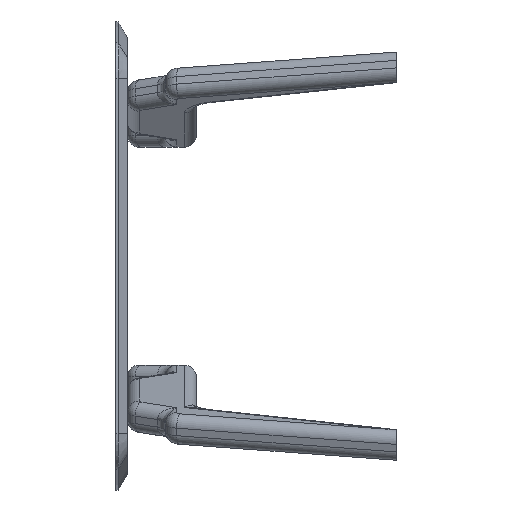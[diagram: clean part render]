
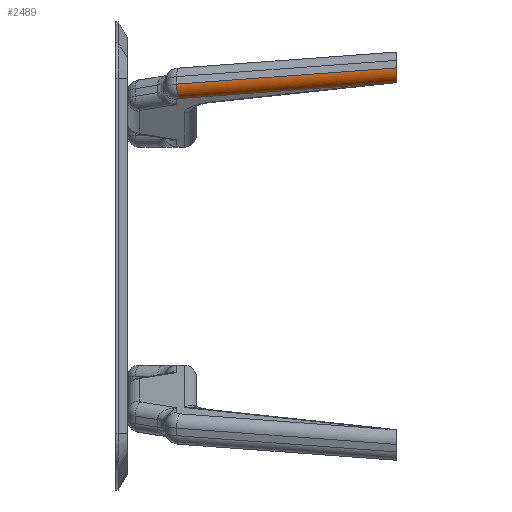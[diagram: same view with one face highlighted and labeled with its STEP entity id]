
A CAD part, left-side view. The second image highlights one B-rep face of the part: STEP entity #2489.
In plain terms, the highlighted cylindrical face has radius 15 mm (diameter 30 mm), a partial arc.
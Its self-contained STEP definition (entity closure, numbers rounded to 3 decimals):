
#341 = CARTESIAN_POINT ( 'NONE',  ( -10.853, 13.503, 0. ) ) ;
#503 =( BOUNDED_CURVE ( )  B_SPLINE_CURVE ( 3, ( #2822, #738, #5583, #3435 ),
 .UNSPECIFIED., .F., .F. ) 
 B_SPLINE_CURVE_WITH_KNOTS ( ( 4, 4 ),
 ( 0., 1.52 ),
 .UNSPECIFIED. ) 
 CURVE ( )  GEOMETRIC_REPRESENTATION_ITEM ( )  RATIONAL_B_SPLINE_CURVE ( ( 1., 0.817, 0.817, 1. ) ) 
 REPRESENTATION_ITEM ( '' )  );
#565 = VERTEX_POINT ( 'NONE', #2317 ) ;
#738 = CARTESIAN_POINT ( 'NONE',  ( -30., 0., 6.566 ) ) ;
#776 = CARTESIAN_POINT ( 'NONE',  ( -15.511, -3.882, 15. ) ) ;
#904 = EDGE_CURVE ( 'NONE', #1867, #565, #2326, .T. ) ;
#936 = EDGE_CURVE ( 'NONE', #1867, #5803, #5259, .T. ) ;
#1177 = CARTESIAN_POINT ( 'NONE',  ( -30., 0., 15. ) ) ;
#1583 = LINE ( 'NONE', #5625, #4193 ) ;
#1602 = CARTESIAN_POINT ( 'NONE',  ( -30., 0., 15. ) ) ;
#1664 = EDGE_CURVE ( 'NONE', #5506, #565, #1583, .T. ) ;
#1689 = ORIENTED_EDGE ( 'NONE', *, *, #904, .T. ) ;
#1746 = CARTESIAN_POINT ( 'NONE',  ( -12.324, 8.999, 0. ) ) ;
#1867 = VERTEX_POINT ( 'NONE', #6304 ) ;
#2052 = DIRECTION ( 'NONE',  ( -0.259, -0.966, 0. ) ) ;
#2216 = EDGE_CURVE ( 'NONE', #5803, #3510, #503, .T. ) ;
#2242 = EDGE_CURVE ( 'NONE', #3510, #5506, #6587, .T. ) ;
#2244 = VECTOR ( 'NONE', #2052, 1000. ) ;
#2317 = CARTESIAN_POINT ( 'NONE',  ( 59.965, 277.797, 0. ) ) ;
#2326 = CIRCLE ( 'NONE', #4977, 15. ) ;
#2439 = CARTESIAN_POINT ( 'NONE',  ( -15.265, 0., 0.02 ) ) ;
#2489 = ADVANCED_FACE ( 'NONE', ( #5413 ), #3829, .T. ) ;
#2622 = ORIENTED_EDGE ( 'NONE', *, *, #1664, .F. ) ;
#2822 = CARTESIAN_POINT ( 'NONE',  ( -30., 0., 15. ) ) ;
#3146 = DIRECTION ( 'NONE',  ( 0.966, -0.259, 0. ) ) ;
#3435 = CARTESIAN_POINT ( 'NONE',  ( -15.265, 0., 0.02 ) ) ;
#3510 = VERTEX_POINT ( 'NONE', #2439 ) ;
#3829 = CYLINDRICAL_SURFACE ( 'NONE', #5156, 15. ) ;
#3932 = CARTESIAN_POINT ( 'NONE',  ( -10.853, 13.503, 0. ) ) ;
#4193 = VECTOR ( 'NONE', #6805, 1000. ) ;
#4425 = CARTESIAN_POINT ( 'NONE',  ( -15.265, 0., 0.02 ) ) ;
#4489 = CARTESIAN_POINT ( 'NONE',  ( -13.795, 4.498, 0.007 ) ) ;
#4944 = ORIENTED_EDGE ( 'NONE', *, *, #936, .F. ) ;
#4977 = AXIS2_PLACEMENT_3D ( 'NONE', #6411, #5268, #3146 ) ;
#5156 = AXIS2_PLACEMENT_3D ( 'NONE', #776, #6101, #6636 ) ;
#5247 = ORIENTED_EDGE ( 'NONE', *, *, #2216, .F. ) ;
#5259 = LINE ( 'NONE', #1602, #2244 ) ;
#5268 = DIRECTION ( 'NONE',  ( -0.259, -0.966, 0. ) ) ;
#5413 = FACE_OUTER_BOUND ( 'NONE', #6221, .T. ) ;
#5506 = VERTEX_POINT ( 'NONE', #341 ) ;
#5583 = CARTESIAN_POINT ( 'NONE',  ( -23.986, 0., 0.451 ) ) ;
#5625 = CARTESIAN_POINT ( 'NONE',  ( -13.501, 3.618, 0. ) ) ;
#5803 = VERTEX_POINT ( 'NONE', #1177 ) ;
#6101 = DIRECTION ( 'NONE',  ( -0.259, -0.966, 0. ) ) ;
#6221 = EDGE_LOOP ( 'NONE', ( #4944, #1689, #2622, #6658, #5247 ) ) ;
#6304 = CARTESIAN_POINT ( 'NONE',  ( 45.476, 281.679, 15. ) ) ;
#6411 = CARTESIAN_POINT ( 'NONE',  ( 59.965, 277.797, 15. ) ) ;
#6587 =( BOUNDED_CURVE ( )  B_SPLINE_CURVE ( 3, ( #4425, #4489, #1746, #3932 ),
 .UNSPECIFIED., .F., .F. ) 
 B_SPLINE_CURVE_WITH_KNOTS ( ( 4, 4 ),
 ( 1.52, 1.571 ),
 .UNSPECIFIED. ) 
 CURVE ( )  GEOMETRIC_REPRESENTATION_ITEM ( )  RATIONAL_B_SPLINE_CURVE ( ( 1., 1., 1., 1. ) ) 
 REPRESENTATION_ITEM ( '' )  );
#6636 = DIRECTION ( 'NONE',  ( 0.966, -0.259, 0. ) ) ;
#6658 = ORIENTED_EDGE ( 'NONE', *, *, #2242, .F. ) ;
#6805 = DIRECTION ( 'NONE',  ( 0.259, 0.966, 0. ) ) ;
